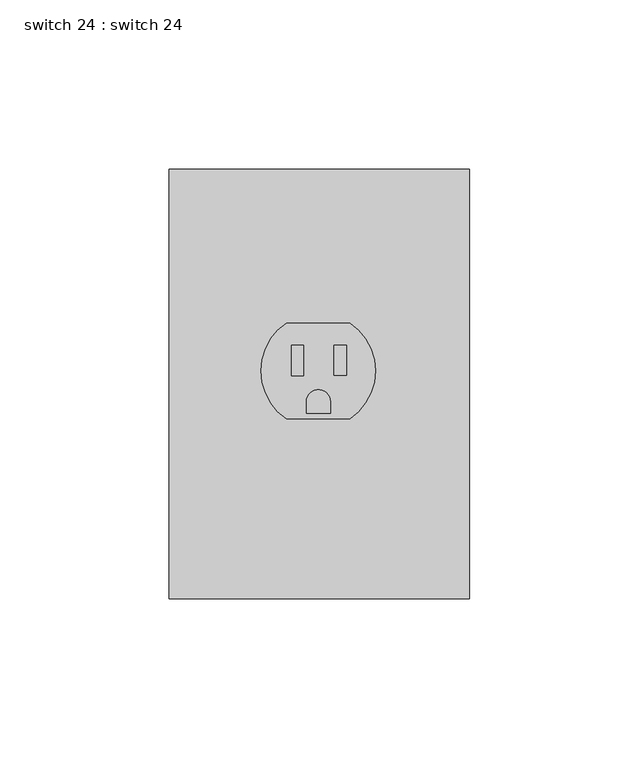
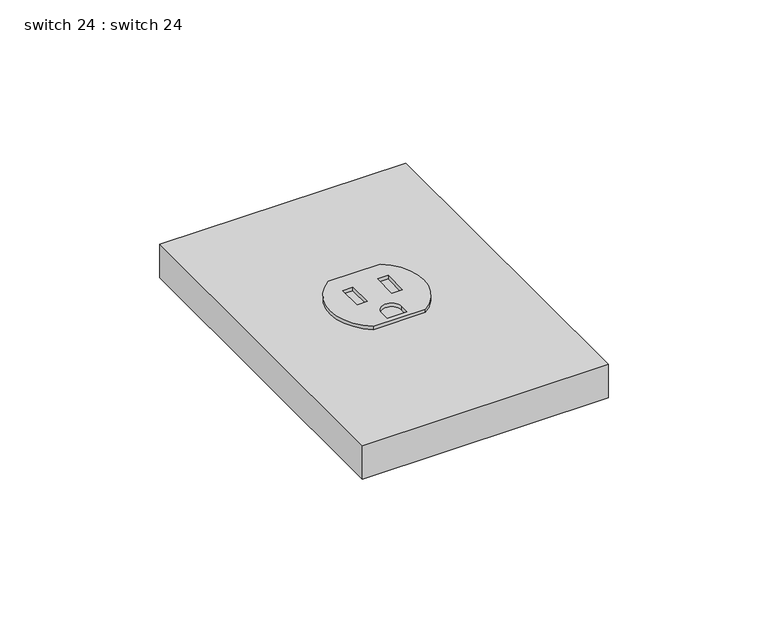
"""IFC4 building model written with IfcOpenShell, lengths in millimetres: proxy geometry, switch 24 : switch 24."""

from ifc_helpers import new_model, si_unit, point, frame, frame_2d, origin, origin_with_axes, place, context, project, spatial, polyline, circle_curve, trimmed, segment, composite_curve, outline, extrude, source, transform, mapped, element, save


def switch_24_switch_24_14b5091a(model_context):
    return source(origin(), model_context, "Body", "SweptSolid", [
        extrude(outline(composite_curve([segment(polyline([(9.0355293, 53.2475477), (-9.717709, 53.2475477)]), True, "CONTINUOUS"), segment(trimmed(circle_curve(frame_2d((-0.2607271, 67.377024)), 17.002253), [point((-9.717709, 53.2475477))], [point((-9.717709, 81.5065003))], False, "CARTESIAN"), True, "CONTINUOUS"), segment(polyline([(-9.717709, 81.5065003), (9.0355293, 81.5065003)]), True, "CONTINUOUS"), segment(trimmed(circle_curve(frame_2d((-0.4214526, 67.377024)), 17.002253), [point((9.0355293, 81.5065003))], [point((9.0355293, 53.2475477))], False, "CARTESIAN"), True, "CONTINUOUS")], self_intersect=False), holes=[polyline([(-4.6364161, 74.912551), (-8.279196, 74.912551), (-8.279196, 65.9360781), (-4.6364161, 65.9360781), (-4.6364161, 74.912551)]), polyline([(4.2902412, 74.9734526), (4.2902412, 66.0172469), (8.0958072, 66.0172469), (8.0958072, 74.9734526), (4.2902412, 74.9734526)]), composite_curve([segment(polyline([(3.3079712, 54.8450522), (3.3079712, 58.2726202)]), True, "CONTINUOUS"), segment(trimmed(circle_curve(frame_2d((-0.2546841, 58.2726202)), 3.5626553), [point((3.3079712, 58.2726202))], [point((-3.8173394, 58.2726202))], True, "CARTESIAN"), True, "CONTINUOUS"), segment(polyline([(-3.8173394, 58.2726202), (-3.8173394, 54.8450522), (3.3079712, 54.8450522)]), True, "CONTINUOUS")], self_intersect=False)]), frame((0.0, 0.0, 12.7), z_axis=(0.0, 0.0, 1.0), x_axis=(1.0, 0.0, 0.0)), (0.0, 0.0, 1.0), 1.2829052),
        extrude(outline(polyline([(-44.45, 0.0), (-44.45, 127.0), (44.45, 127.0), (44.45, 0.0), (-44.45, 0.0)])), origin_with_axes(), (0.0, 0.0, 1.0), 12.7),
    ])


if __name__ == "__main__":
    model = new_model("IFC4")
    model_context = context("Model", 3, world=origin())
    ifc_project = project(units=[si_unit("LENGTHUNIT", "METRE", prefix="MILLI")], contexts=[model_context])
    site = spatial("IfcSite", under=ifc_project)
    building = spatial("IfcBuilding", under=site)
    placement = place(None, origin())
    switch_24_switch_24_shape = switch_24_switch_24_14b5091a(model_context)
    element("IfcBuildingElementProxy", 1, Name="switch 24 : switch 24", ObjectType="switch 24 : switch 24", at=placement, inside=building, context=model_context, shape_type="MappedRepresentation", body=[
        mapped(switch_24_switch_24_shape, transform((0.0, 0.0, 0.0), x_axis=(1.0, 0.0, 0.0), y_axis=(0.0, 1.0, 0.0), z_axis=(0.0, 0.0, 1.0))),
    ])
    save(model, "model.ifc")
